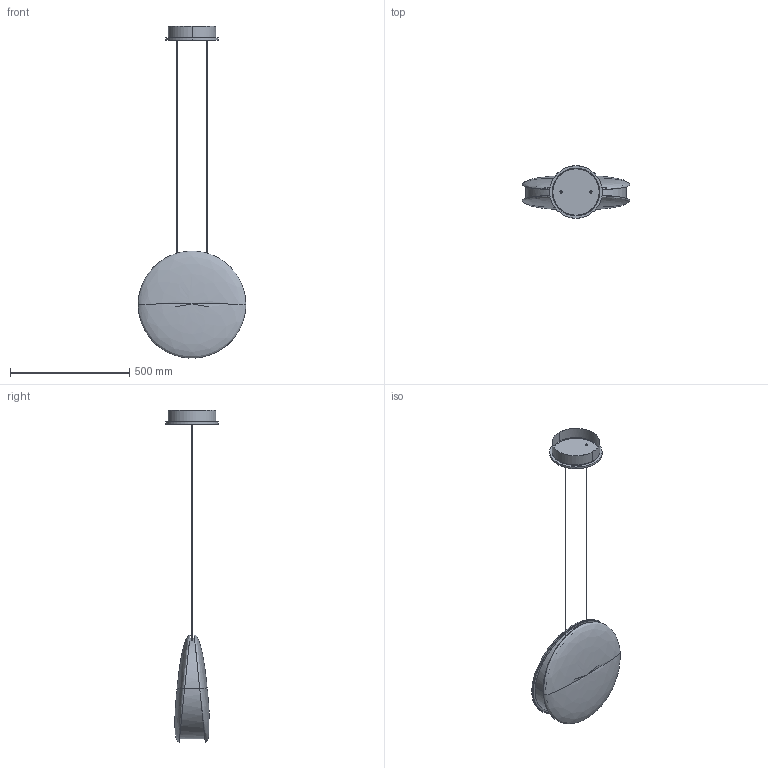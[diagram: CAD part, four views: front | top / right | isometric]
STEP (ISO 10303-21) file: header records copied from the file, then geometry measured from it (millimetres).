
FILE_DESCRIPTION(/* description */ (''),/* implementation_level */ '2;1');
FILE_NAME(/* name */ 'Macaron pendant 450 STEP',/* time_stamp */ '2024-12-23T14:40:35+01:00',/* author */ (''),/* organization */ (''),/* preprocessor_version */ 'ST-DEVELOPER v16.5',/* originating_system */ 'Rhino 7.37',/* authorisation */ '');
FILE_SCHEMA (('CONFIG_CONTROL_DESIGN'));
Length unit declared in the file: millimetre
Products named in the file (1): Document
Bounding box: 450 x 220 x 1389.7 mm (x, y, z)
Volume: 3997885.8 mm3; surface area: 1682018 mm2
Topology: 11 solids, 11 shells, 90 faces, 180 edges, 108 vertices
Faces by surface type: plane 36, cylinder 30, bspline 24
Entity records: 4452 total; most frequent: CARTESIAN_POINT 3178, ORIENTED_EDGE 344, EDGE_CURVE 172, VERTEX_POINT 108, EDGE_LOOP 96, ADVANCED_FACE 90, FACE_OUTER_BOUND 90, DIRECTION 70
